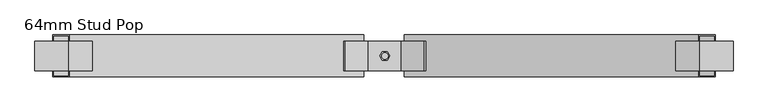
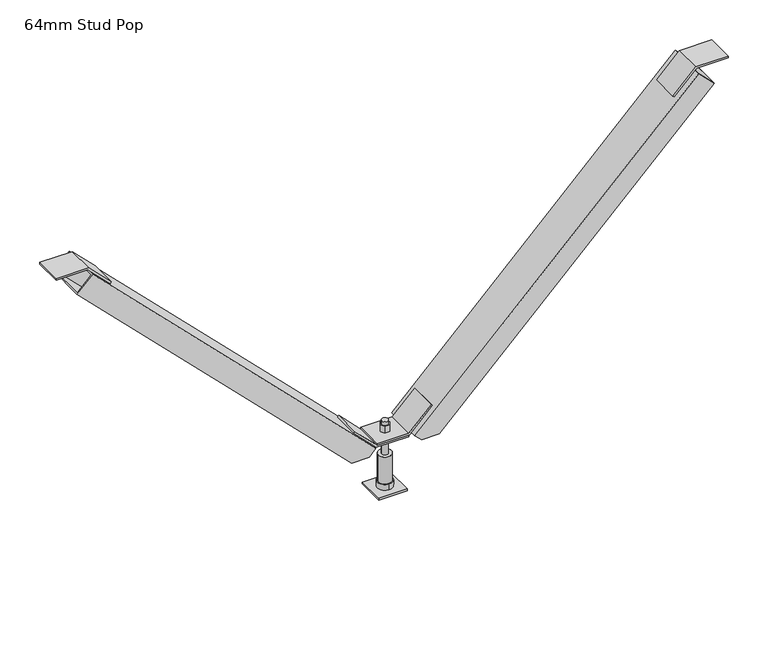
"""IFC4 building model written with IfcOpenShell, lengths in millimetres: beam geometry, Vertibrace Boxstud Brace : 64mm Stud Pop."""

from ifc_helpers import new_model, si_unit, frame, origin, origin_with_axes, place, context, project, spatial, polyline, circle_curve, outline, extrude, faceted_brep, source, transform, mapped, element, save
from ifc_brep_helpers import plane_surface, cylinder_surface, advanced_brep


def beam_64mm_stud_pop_ef9a7411(model_context):
    return source(origin(), model_context, "Body", "SolidModel", [
        extrude(outline(polyline([(547.0013294, 480.8434194), (547.0013294, 530.8278886), (550.0, 530.8278886), (550.0, 479.6013294), (513.7773526, 443.378682), (511.6569723, 445.4990623), (547.0013294, 480.8434194)])), frame((0.0, -22.5, 0.0), z_axis=(0.0, 1.0, 0.0), x_axis=(0.0, 0.0, 1.0)), (0.0, 0.0, 1.0), 45.0),
        extrude(outline(polyline([(547.0013294, -483.535654), (511.6569723, -448.1912969), (513.7773526, -446.0709166), (550.0, -482.293564), (550.0, -533.5201232), (547.0013294, -533.5201232), (547.0013294, -483.535654)])), frame((0.0, -22.5, 0.0), z_axis=(0.0, 1.0, 0.0), x_axis=(0.0, 0.0, 1.0)), (0.0, 0.0, 1.0), 45.0),
        extrude(outline(polyline([(95.6986706, 24.9922346), (95.6986706, -24.9922346), (92.7, -24.9922346), (92.7, 26.2343246), (128.9226474, 62.456972), (131.0430277, 60.3365917), (95.6986706, 24.9922346)])), frame((0.0, -22.5, 0.0), z_axis=(0.0, 1.0, 0.0), x_axis=(0.0, 0.0, 1.0)), (0.0, 0.0, 1.0), 45.0),
        extrude(outline(polyline([(92.6986706, -24.9922346), (128.0430277, -60.3365917), (125.9226474, -62.456972), (89.7, -26.2343246), (89.7, 24.9922346), (92.6986706, 24.9922346), (92.6986706, -24.9922346)])), frame((0.0, -22.5, 0.0), z_axis=(0.0, 1.0, 0.0), x_axis=(0.0, 0.0, 1.0)), (0.0, 0.0, 1.0), 45.0),
        extrude(outline(polyline([(22.5, 22.5), (22.5, -22.5), (-22.5, -22.5), (-22.5, 22.5), (22.5, 22.5)])), origin_with_axes(), (0.0, 0.0, 1.0), 3.0),
        advanced_brep(
        [(-5.0, 0.0, 0.0), (5.0, 0.0, 0.0), (-5.0, 0.0, 113.0), (5.0, 0.0, 113.0), (5.0, 0.0, 3.0), (-5.0, 0.0, 3.0), (-5.0, 0.0, 107.4), (5.0, 0.0, 107.4), (-5.0, 0.0, 58.0), (5.0, 0.0, 58.0), (5.0, 0.0, 83.0), (-5.0, 0.0, 83.0), (5.0, 0.0, 95.7), (-5.0, 0.0, 95.7), (-5.0, 0.0, 89.7), (5.0, 0.0, 89.7), (-10.5, 0.0, 58.0), (10.5, 0.0, 58.0), (-10.5, 0.0, 13.0), (10.5, 0.0, 13.0), (0.0, -12.0, 13.0), (0.0, 12.0, 13.0), (3.75, 6.4951905, 107.4), (-3.75, 6.4951905, 107.4), (-7.5, 0.0, 107.4), (-3.75, -6.4951905, 107.4), (3.75, -6.4951905, 107.4), (7.5, 0.0, 107.4), (3.75, 6.4951905, 95.7), (7.5, 0.0, 95.7), (3.75, -6.4951905, 95.7), (-3.75, -6.4951905, 95.7), (-7.5, 0.0, 95.7), (-3.75, 6.4951905, 95.7), (-10.9696551, 0.0, 89.7), (-5.4848276, -9.5, 89.7), (5.4848276, -9.5, 89.7), (10.9696551, 0.0, 89.7), (5.4848276, 9.5, 89.7), (-5.4848276, 9.5, 89.7), (-10.9696551, 0.0, 83.0), (-5.4848276, 9.5, 83.0), (5.4848276, 9.5, 83.0), (10.9696551, 0.0, 83.0), (5.4848276, -9.5, 83.0), (-5.4848276, -9.5, 83.0), (0.0, -12.0, 3.0), (0.0, 12.0, 3.0)],
        [
            (0, 1, circle_curve(frame((0.0, 0.0, 0.0), z_axis=(0.0, 0.0, -1.0), x_axis=(1.0, 0.0, 0.0)), 5.0)),
            (1, 0, circle_curve(frame((0.0, 0.0, 0.0), z_axis=(0.0, 0.0, -1.0), x_axis=(1.0, 0.0, 0.0)), 5.0)),
            (2, 3, circle_curve(frame((0.0, 0.0, 113.0), z_axis=(0.0, 0.0, 1.0), x_axis=(1.0, 0.0, 0.0)), 5.0)),
            (3, 2, circle_curve(frame((0.0, 0.0, 113.0), z_axis=(0.0, 0.0, 1.0), x_axis=(1.0, 0.0, 0.0)), 5.0)),
            (1, 4),
            (4, 5, circle_curve(frame((0.0, 0.0, 3.0), z_axis=(0.0, 0.0, -1.0), x_axis=(1.0, 0.0, 0.0)), 5.0)),
            (5, 0),
            (2, 6),
            (6, 7, circle_curve(frame((0.0, 0.0, 107.4), z_axis=(0.0, 0.0, 1.0), x_axis=(1.0, 0.0, 0.0)), 5.0)),
            (7, 3),
            (8, 9, circle_curve(frame((0.0, 0.0, 58.0), z_axis=(0.0, 0.0, 1.0), x_axis=(1.0, 0.0, 0.0)), 5.0)),
            (9, 10),
            (10, 11, circle_curve(frame((0.0, 0.0, 83.0), z_axis=(0.0, 0.0, -1.0), x_axis=(1.0, 0.0, 0.0)), 5.0)),
            (11, 8),
            (12, 13, circle_curve(frame((0.0, 0.0, 95.7), z_axis=(0.0, 0.0, -1.0), x_axis=(1.0, 0.0, 0.0)), 5.0)),
            (13, 14),
            (14, 15, circle_curve(frame((0.0, 0.0, 89.7), z_axis=(0.0, 0.0, 1.0), x_axis=(1.0, 0.0, 0.0)), 5.0)),
            (15, 12),
            (5, 4, circle_curve(frame((0.0, 0.0, 3.0), z_axis=(0.0, 0.0, -1.0), x_axis=(1.0, 0.0, 0.0)), 5.0)),
            (7, 6, circle_curve(frame((0.0, 0.0, 107.4), z_axis=(0.0, 0.0, 1.0), x_axis=(1.0, 0.0, 0.0)), 5.0)),
            (9, 8, circle_curve(frame((0.0, 0.0, 58.0), z_axis=(0.0, 0.0, 1.0), x_axis=(1.0, 0.0, 0.0)), 5.0)),
            (11, 10, circle_curve(frame((0.0, 0.0, 83.0), z_axis=(0.0, 0.0, -1.0), x_axis=(1.0, 0.0, 0.0)), 5.0)),
            (13, 12, circle_curve(frame((0.0, 0.0, 95.7), z_axis=(0.0, 0.0, -1.0), x_axis=(1.0, 0.0, 0.0)), 5.0)),
            (15, 14, circle_curve(frame((0.0, 0.0, 89.7), z_axis=(0.0, 0.0, 1.0), x_axis=(1.0, 0.0, 0.0)), 5.0)),
            (16, 17, circle_curve(frame((0.0, 0.0, 58.0), z_axis=(0.0, 0.0, 1.0), x_axis=(1.0, 0.0, 0.0)), 10.5)),
            (17, 16, circle_curve(frame((0.0, 0.0, 58.0), z_axis=(0.0, 0.0, 1.0), x_axis=(1.0, 0.0, 0.0)), 10.5)),
            (16, 18),
            (18, 19, circle_curve(frame((0.0, 0.0, 13.0), z_axis=(0.0, 0.0, 1.0), x_axis=(1.0, 0.0, 0.0)), 10.5)),
            (19, 17),
            (19, 18, circle_curve(frame((0.0, 0.0, 13.0), z_axis=(0.0, 0.0, 1.0), x_axis=(1.0, 0.0, 0.0)), 10.5)),
            (20, 21, circle_curve(frame((0.0, 0.0, 13.0), z_axis=(0.0, 0.0, 1.0), x_axis=(0.0, 1.0, 0.0)), 12.0)),
            (21, 20, circle_curve(frame((0.0, 0.0, 13.0), z_axis=(0.0, 0.0, 1.0), x_axis=(0.0, 1.0, 0.0)), 12.0)),
            (22, 23),
            (23, 24),
            (24, 25),
            (25, 26),
            (26, 27),
            (27, 22),
            (28, 29),
            (29, 30),
            (30, 31),
            (31, 32),
            (32, 33),
            (33, 28),
            (22, 28),
            (33, 23),
            (32, 24),
            (31, 25),
            (30, 26),
            (29, 27),
            (34, 35),
            (35, 36),
            (36, 37),
            (37, 38),
            (38, 39),
            (39, 34),
            (40, 41),
            (41, 42),
            (42, 43),
            (43, 44),
            (44, 45),
            (45, 40),
            (34, 40),
            (45, 35),
            (44, 36),
            (43, 37),
            (42, 38),
            (41, 39),
            (46, 47, circle_curve(frame((0.0, 0.0, 3.0), z_axis=(0.0, 0.0, -1.0), x_axis=(0.0, 1.0, 0.0)), 12.0)),
            (47, 46, circle_curve(frame((0.0, 0.0, 3.0), z_axis=(0.0, 0.0, -1.0), x_axis=(0.0, 1.0, 0.0)), 12.0)),
            (47, 21),
            (20, 46),
        ],
        [
            plane_surface(frame((5.0, 0.0, 0.0), z_axis=(0.0, 0.0, -1.0), x_axis=(0.0, -1.0, 0.0))),
            plane_surface(frame((5.0, 0.0, 113.0), z_axis=(0.0, 0.0, 1.0), x_axis=(0.0, 1.0, 0.0))),
            cylinder_surface(origin_with_axes(), 5.0),
            plane_surface(frame((10.5, 0.0, 58.0), z_axis=(0.0, 0.0, 1.0), x_axis=(0.0, 1.0, 0.0))),
            cylinder_surface(frame((0.0, 0.0, 13.0), z_axis=(0.0, 0.0, 1.0), x_axis=(1.0, 0.0, 0.0)), 10.5),
            plane_surface(frame((0.0, 12.0, 13.0), z_axis=(0.0, 0.0, 1.0), x_axis=(-1.0, 0.0, 0.0))),
            plane_surface(frame((3.75, 6.4951905, 107.4), z_axis=(0.0, 0.0, 1.0), x_axis=(-1.0, 0.0, 0.0))),
            plane_surface(frame((3.75, 6.4951905, 95.7), z_axis=(0.0, 0.0, -1.0), x_axis=(1.0, 0.0, 0.0))),
            plane_surface(frame((3.75, 6.4951905, 107.4), z_axis=(0.0, 1.0, 0.0), x_axis=(0.0, 0.0, -1.0))),
            plane_surface(frame((-3.75, 6.4951905, 107.4), z_axis=(-0.866025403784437, 0.5000000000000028, 0.0), x_axis=(0.0, 0.0, -1.0))),
            plane_surface(frame((-7.5, 0.0, 107.4), z_axis=(-0.8660254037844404, -0.4999999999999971, 0.0), x_axis=(0.0, 0.0, -1.0))),
            plane_surface(frame((-3.75, -6.4951905, 107.4), z_axis=(0.0, -1.0, 0.0), x_axis=(0.0, 0.0, -1.0))),
            plane_surface(frame((3.75, -6.4951905, 107.4), z_axis=(0.8660254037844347, -0.500000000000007, 0.0), x_axis=(0.0, 0.0, -1.0))),
            plane_surface(frame((7.5, 0.0, 107.4), z_axis=(0.8660254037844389, 0.49999999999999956, 0.0), x_axis=(0.0, 0.0, -1.0))),
            plane_surface(frame((-10.9696551, 0.0, 89.7), z_axis=(0.0, 0.0, 1.0000000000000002), x_axis=(0.4999999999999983, -0.8660254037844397, 0.0))),
            plane_surface(frame((-10.9696551, 0.0, 83.0), z_axis=(0.0, 0.0, -1.0000000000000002), x_axis=(-0.4999999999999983, 0.8660254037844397, 0.0))),
            plane_surface(frame((-10.9696551, 0.0, 89.7), z_axis=(-0.8660254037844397, -0.4999999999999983, 0.0), x_axis=(0.0, 0.0, -1.0))),
            plane_surface(frame((-5.4848276, -9.5, 89.7), z_axis=(0.0, -1.0, 0.0), x_axis=(0.0, 0.0, -1.0))),
            plane_surface(frame((5.4848276, -9.5, 89.7), z_axis=(0.8660254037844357, -0.5000000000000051, 0.0), x_axis=(0.0, 0.0, -1.0))),
            plane_surface(frame((10.9696551, 0.0, 89.7), z_axis=(0.8660254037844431, 0.4999999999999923, 0.0), x_axis=(0.0, 0.0, -1.0))),
            plane_surface(frame((5.4848276, 9.5, 89.7), z_axis=(0.0, 1.0, 0.0), x_axis=(0.0, 0.0, -1.0))),
            plane_surface(frame((-5.4848276, 9.5, 89.7), z_axis=(-0.8660254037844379, 0.5000000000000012, 0.0), x_axis=(0.0, 0.0, -1.0))),
            plane_surface(frame((0.0, 12.0, 3.0), z_axis=(0.0, 0.0, -1.0), x_axis=(1.0, 0.0, 0.0))),
            cylinder_surface(frame((0.0, 0.0, 3.0), z_axis=(0.0, 0.0, 1.0), x_axis=(0.0, 1.0, 0.0)), 12.0),
        ],
        [
            (0, [[1, 2]]),
            (1, [[3, 4]]),
            (2, [[-2, 5, 6, 7]]),
            (2, [[-3, 8, 9, 10]]),
            (2, [[11, 12, 13, 14]]),
            (2, [[15, 16, 17, 18]]),
            (2, [[-1, -7, 19, -5]]),
            (2, [[-4, -10, 20, -8]]),
            (2, [[21, -14, 22, -12]]),
            (2, [[23, -18, 24, -16]]),
            (3, [[25, 26], [-11, -21]]),
            (4, [[-25, 27, 28, 29]]),
            (4, [[-26, -29, 30, -27]]),
            (5, [[31, 32], [-28, -30]]),
            (6, [[33, 34, 35, 36, 37, 38], [-9, -20]]),
            (7, [[39, 40, 41, 42, 43, 44], [-15, -23]]),
            (8, [[-33, 45, -44, 46]]),
            (9, [[-34, -46, -43, 47]]),
            (10, [[-35, -47, -42, 48]]),
            (11, [[-36, -48, -41, 49]]),
            (12, [[-37, -49, -40, 50]]),
            (13, [[-38, -50, -39, -45]]),
            (14, [[51, 52, 53, 54, 55, 56], [-17, -24]]),
            (15, [[57, 58, 59, 60, 61, 62], [-13, -22]]),
            (16, [[-51, 63, -62, 64]]),
            (17, [[-52, -64, -61, 65]]),
            (18, [[-53, -65, -60, 66]]),
            (19, [[-54, -66, -59, 67]]),
            (20, [[-55, -67, -58, 68]]),
            (21, [[-56, -68, -57, -63]]),
            (22, [[69, 70], [-6, -19]]),
            (23, [[-70, 71, -31, 72]]),
            (23, [[-69, -72, -32, -71]]),
        ],
    ),
        faceted_brep([(39.9343246, 30.0, 85.0), (39.9343246, 32.0, 85.0), (68.0317993, 32.0, 85.0), (68.0317993, -32.0, 85.0), (39.9343246, -32.0, 85.0), (39.9343246, -30.0, 85.0), (65.2033722, -30.0, 85.0), (65.2033722, 30.0, 85.0), (29.2343246, -32.0, 95.7), (29.2343246, 32.0, 95.7), (30.6485382, 30.0, 94.2857864), (30.6485382, -30.0, 94.2857864), (478.5343246, 32.0, 545.0), (478.5343246, -32.0, 545.0), (503.283062, -32.0, 520.2512627), (503.283062, 32.0, 520.2512627), (501.8688484, -30.0, 521.6654762), (479.9485382, -30.0, 543.5857864), (479.9485382, 30.0, 543.5857864), (501.8688484, 30.0, 521.6654762)], [[[0, 1, 2, 3, 4, 5, 6, 7]], [[8, 9, 1, 0, 10, 11, 5, 4]], [[12, 13, 14, 15], [16, 17, 18, 19]], [[12, 15, 2, 1, 9]], [[15, 14, 3, 2]], [[16, 19, 7, 6]], [[19, 18, 10, 0, 7]], [[11, 10, 18, 17]], [[17, 16, 6, 5, 11]], [[14, 13, 8, 4, 3]], [[9, 8, 13, 12]]]),
        faceted_brep([(-32.5343246, 32.0, 96.0), (-32.5343246, -32.0, 96.0), (-43.5343246, -32.0, 85.0), (-43.5343246, -30.0, 85.0), (-33.9485382, -30.0, 94.5857864), (-33.9485382, 30.0, 94.5857864), (-43.5343246, 30.0, 85.0), (-43.5343246, 32.0, 85.0), (-481.4883773, -32.0, 544.9540527), (-481.4883773, 32.0, 544.9540527), (-506.2371147, 32.0, 520.2053154), (-506.2371147, -32.0, 520.2053154), (-504.8229011, 30.0, 521.6195289), (-482.9025909, 30.0, 543.5398392), (-482.9025909, -30.0, 543.5398392), (-504.8229011, -30.0, 521.6195289), (-71.0317993, -32.0, 85.0), (-71.0317993, 32.0, 85.0), (-68.2033722, 30.0, 85.0), (-68.2033722, -30.0, 85.0)], [[[0, 1, 2, 3, 4, 5, 6, 7]], [[8, 9, 10, 11], [12, 13, 14, 15]], [[8, 11, 16, 2, 1]], [[11, 10, 17, 16]], [[10, 9, 0, 7, 17]], [[1, 0, 9, 8]], [[3, 2, 16, 17, 7, 6, 18, 19]], [[12, 15, 19, 18]], [[15, 14, 4, 3, 19]], [[5, 4, 14, 13]], [[13, 12, 18, 6, 5]]]),
    ])


if __name__ == "__main__":
    model = new_model("IFC4")
    model_context = context("Model", 3, world=origin())
    ifc_project = project(units=[si_unit("LENGTHUNIT", "METRE", prefix="MILLI")], contexts=[model_context])
    site = spatial("IfcSite", under=ifc_project)
    building = spatial("IfcBuilding", under=site)
    placement = place(None, origin())
    beam_64mm_stud_pop_shape = beam_64mm_stud_pop_ef9a7411(model_context)
    element("IfcBeam", 1, ObjectType="Vertibrace Boxstud Brace : 64mm Stud Pop", at=placement, inside=building, context=model_context, shape_type="MappedRepresentation", body=[
        mapped(beam_64mm_stud_pop_shape, transform((0.0, 0.0, 0.0), x_axis=(1.0, 0.0, 0.0), y_axis=(0.0, 1.0, 0.0), z_axis=(0.0, 0.0, 1.0))),
    ])
    save(model, "model.ifc")
